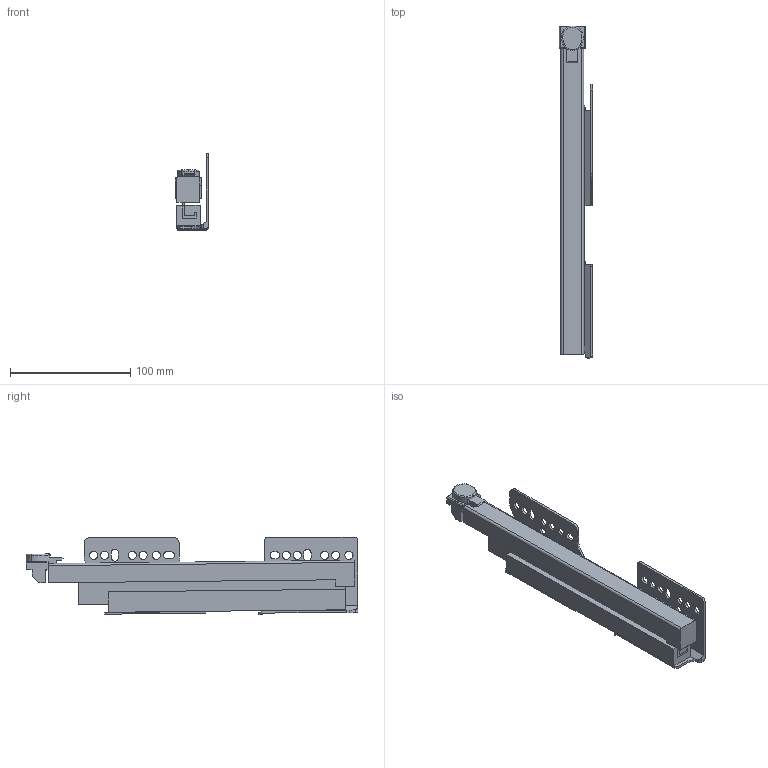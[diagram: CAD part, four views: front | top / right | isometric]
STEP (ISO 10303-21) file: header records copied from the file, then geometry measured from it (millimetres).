
FILE_DESCRIPTION (( 'STEP AP214' ), '1' );
FILE_NAME ('_IMOS_NOVA-Pro_KS_TL_EB29mm_RE_NL270.step', '2010-07-15T11:34:06', ( 'grass' ), ( '' ), 'SwSTEP 2.0', 'SolidWorks 2009', '' );
FILE_SCHEMA (( 'AUTOMOTIVE_DESIGN' ));
Length unit declared in the file: millimetre
Products named in the file (1): _IMOS_NOVA-Pro_KS_TL_EB29mm_RE_NL270
Bounding box: 27.95 x 275.71 x 64.46 mm (x, y, z)
Volume: 197911.1 mm3; surface area: 90542.1 mm2
Topology: 8 solids, 8 shells, 185 faces, 496 edges, 328 vertices
Faces by surface type: plane 116, cylinder 64, torus 5
Entity records: 5964 total; most frequent: CARTESIAN_POINT 1097, ORIENTED_EDGE 992, DIRECTION 972, EDGE_CURVE 496, LINE 350, VECTOR 350, VERTEX_POINT 328, AXIS2_PLACEMENT_3D 311
